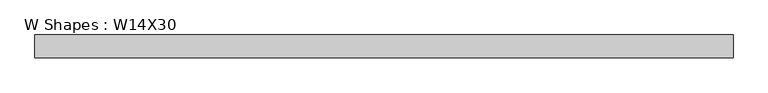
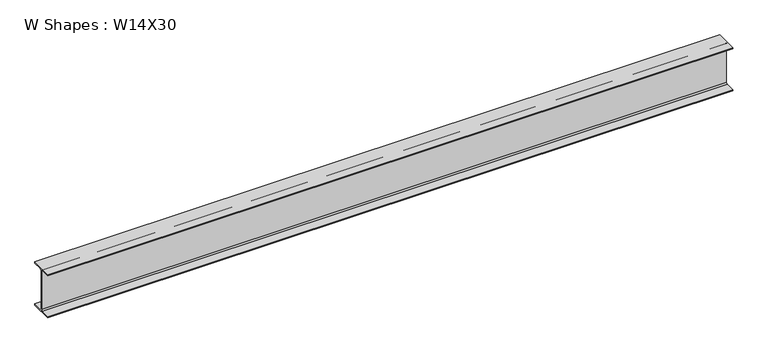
"""IFC4 building model written with IfcOpenShell, lengths in millimetres: beam geometry, W Shapes : W14X30."""

from ifc_helpers import new_model, si_unit, point, frame, frame_2d, origin, place, context, project, spatial, polyline, circle_curve, trimmed, segment, composite_curve, outline, extrude, source, transform, mapped, element, save


def w_shapes_w14x30_8a2fed69(model_context):
    return source(origin(), model_context, "Body", "SweptSolid", [
        extrude(outline(composite_curve([segment(polyline([(85.471, -165.481), (85.471, -175.26), (-85.471, -175.26), (-85.471, -165.481), (-13.589, -165.481)]), True, "CONTINUOUS"), segment(trimmed(circle_curve(frame_2d((-13.589, -155.321)), 10.16), [point((-13.589, -165.481))], [point((-3.429, -155.321))], True, "CARTESIAN"), True, "CONTINUOUS"), segment(polyline([(-3.429, -155.321), (-3.429, 155.321)]), True, "CONTINUOUS"), segment(trimmed(circle_curve(frame_2d((-13.589, 155.321)), 10.16), [point((-3.429, 155.321))], [point((-13.589, 165.481))], True, "CARTESIAN"), True, "CONTINUOUS"), segment(polyline([(-13.589, 165.481), (-85.471, 165.481), (-85.471, 175.26), (85.471, 175.26), (85.471, 165.481), (13.589, 165.481)]), True, "CONTINUOUS"), segment(trimmed(circle_curve(frame_2d((13.589, 155.321)), 10.16), [point((13.589, 165.481))], [point((3.429, 155.321))], True, "CARTESIAN"), True, "CONTINUOUS"), segment(polyline([(3.429, 155.321), (3.429, -155.321)]), True, "CONTINUOUS"), segment(trimmed(circle_curve(frame_2d((13.589, -155.321)), 10.16), [point((3.429, -155.321))], [point((13.589, -165.481))], True, "CARTESIAN"), True, "CONTINUOUS"), segment(polyline([(13.589, -165.481), (85.471, -165.481)]), True, "CONTINUOUS")], self_intersect=False)), frame((-2642.39375, 0.0, 0.0), z_axis=(1.0, 0.0, 0.0), x_axis=(0.0, 1.0, 0.0)), (0.0, 0.0, 1.0), 5259.3875),
    ])


if __name__ == "__main__":
    model = new_model("IFC4")
    model_context = context("Model", 3, world=origin())
    ifc_project = project(units=[si_unit("LENGTHUNIT", "METRE", prefix="MILLI")], contexts=[model_context])
    site = spatial("IfcSite", under=ifc_project)
    building = spatial("IfcBuilding", under=site)
    placement = place(None, origin())
    w_shapes_w14x30_shape = w_shapes_w14x30_8a2fed69(model_context)
    element("IfcBeam", 1, ObjectType="W Shapes : W14X30", at=placement, inside=building, context=model_context, shape_type="MappedRepresentation", body=[
        mapped(w_shapes_w14x30_shape, transform((0.0, 0.0, 0.0), x_axis=(1.0, 0.0, 0.0), y_axis=(0.0, 1.0, 0.0), z_axis=(0.0, 0.0, 1.0))),
    ])
    save(model, "model.ifc")
